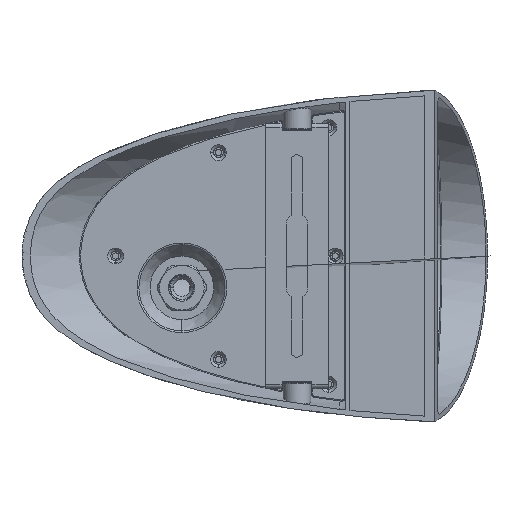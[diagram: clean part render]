
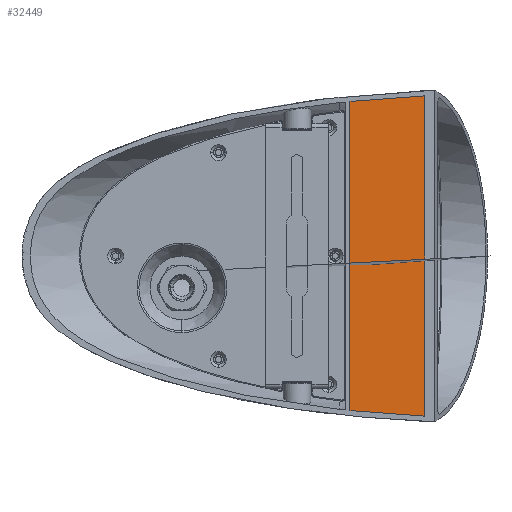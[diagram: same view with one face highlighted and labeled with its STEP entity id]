
A CAD part, front view. The second image highlights one B-rep face of the part: STEP entity #32449.
In plain terms, the highlighted planar face has unit normal (0, -1, 0).
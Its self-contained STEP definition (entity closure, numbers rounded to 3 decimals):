
#27503=DIRECTION('',(0.,0.,1.));
#27504=VECTOR('',#27503,150.955);
#27505=CARTESIAN_POINT('',(-30.75,45.381,-75.477));
#27506=LINE('',#27505,#27504);
#27507=CARTESIAN_POINT('',(-66.,45.381,
-72.863));
#27508=CARTESIAN_POINT('',(-62.092,45.381,
-73.257));
#27509=CARTESIAN_POINT('',(-54.269,45.381,
-73.976));
#27510=CARTESIAN_POINT('',(-42.515,45.381,
-74.808));
#27511=CARTESIAN_POINT('',(-34.674,45.381,
-75.296));
#27512=CARTESIAN_POINT('',(-30.75,45.381,-75.477));
#27514=DIRECTION('',(0.,0.,-1.));
#27515=VECTOR('',#27514,145.727);
#27516=CARTESIAN_POINT('',(-66.,45.381,
72.864));
#27517=LINE('',#27516,#27515);
#27518=CARTESIAN_POINT('',(-30.75,45.381,75.477));
#27519=CARTESIAN_POINT('',(-34.674,45.381,
75.296));
#27520=CARTESIAN_POINT('',(-42.515,45.381,
74.808));
#27521=CARTESIAN_POINT('',(-54.269,45.381,
73.975));
#27522=CARTESIAN_POINT('',(-62.092,45.381,
73.258));
#27523=CARTESIAN_POINT('',(-66.,45.381,
72.864));
#31142=CARTESIAN_POINT('',(-66.,45.381,
72.864));
#31144=VERTEX_POINT('',#31142);
#31268=CARTESIAN_POINT('',(-30.75,45.381,-75.477));
#31269=VERTEX_POINT('',#31268);
#31273=CARTESIAN_POINT('',(-30.75,45.381,75.477));
#31274=VERTEX_POINT('',#31273);
#31408=CARTESIAN_POINT('',(-66.,45.381,
-72.863));
#31409=VERTEX_POINT('',#31408);
#32436=CARTESIAN_POINT('',(-23.545,45.381,100.));
#32437=DIRECTION('',(0.,-1.,0.));
#32438=DIRECTION('',(0.,0.,-1.));
#32439=AXIS2_PLACEMENT_3D('',#32436,#32437,#32438);
#32440=PLANE('',#32439);
#32442=ORIENTED_EDGE('',*,*,#32441,.F.);
#32444=ORIENTED_EDGE('',*,*,#32443,.F.);
#32445=ORIENTED_EDGE('',*,*,#32406,.F.);
#32446=ORIENTED_EDGE('',*,*,#32427,.F.);
#32447=EDGE_LOOP('',(#32442,#32444,#32445,#32446));
#32448=FACE_OUTER_BOUND('',#32447,.F.);
#27513=B_SPLINE_CURVE_WITH_KNOTS('',3,(#27507,#27508,#27509,#27510,#27511,
#27512),.UNSPECIFIED.,.F.,.F.,(4,1,1,4),(0.,0.333,
0.667,1.),.UNSPECIFIED.);
#27524=B_SPLINE_CURVE_WITH_KNOTS('',3,(#27518,#27519,#27520,#27521,#27522,
#27523),.UNSPECIFIED.,.F.,.F.,(4,1,1,4),(0.,0.333,
0.667,1.),.UNSPECIFIED.);
#32406=EDGE_CURVE('',#31144,#31409,#27517,.T.);
#32427=EDGE_CURVE('',#31274,#31144,#27524,.T.);
#32441=EDGE_CURVE('',#31269,#31274,#27506,.T.);
#32443=EDGE_CURVE('',#31409,#31269,#27513,.T.);
#32449=ADVANCED_FACE('',(#32448),#32440,.T.);
